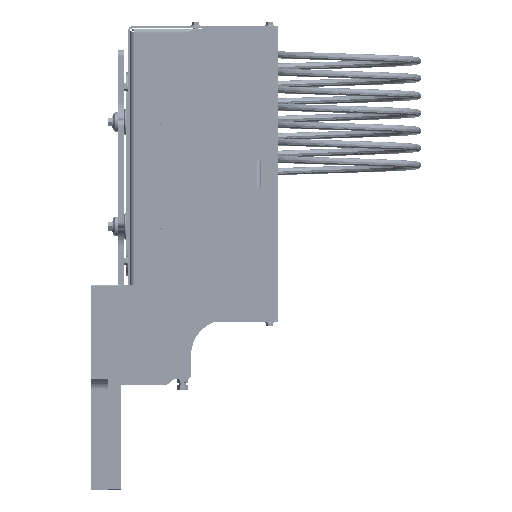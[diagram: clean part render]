
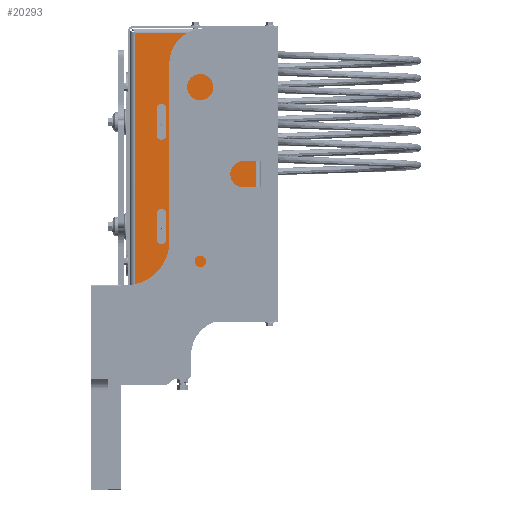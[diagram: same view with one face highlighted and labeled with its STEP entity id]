
A CAD part, left-side view. The second image highlights one B-rep face of the part: STEP entity #20293.
In plain terms, the highlighted planar face has unit normal (-1, 0, 0).
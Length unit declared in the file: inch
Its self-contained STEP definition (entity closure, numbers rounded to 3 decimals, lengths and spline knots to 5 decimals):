
#746 = VECTOR ( 'NONE', #104741, 39.37008 ) ;
#1942 = CARTESIAN_POINT ( 'NONE',  ( -22., 5.98, -3.75 ) ) ;
#3244 = DIRECTION ( 'NONE',  ( 0., 0., -1. ) ) ;
#5101 = AXIS2_PLACEMENT_3D ( 'NONE', #43385, #103668, #52018 ) ;
#6912 = DIRECTION ( 'NONE',  ( 1., 0., 0. ) ) ;
#7045 = CARTESIAN_POINT ( 'NONE',  ( -22., 5.7, -1.97 ) ) ;
#7921 = DIRECTION ( 'NONE',  ( -1., 0., 0. ) ) ;
#8746 = CARTESIAN_POINT ( 'NONE',  ( -22., 0.265, 8.095 ) ) ;
#8983 = VECTOR ( 'NONE', #21545, 39.37008 ) ;
#9997 = LINE ( 'NONE', #90652, #75837 ) ;
#10026 = DIRECTION ( 'NONE',  ( 1., 0., 0. ) ) ;
#10101 = FACE_BOUND ( 'NONE', #79234, .T. ) ;
#11237 = VECTOR ( 'NONE', #20377, 39.37008 ) ;
#12729 = CARTESIAN_POINT ( 'NONE',  ( -22., 5.7, -3.75 ) ) ;
#14408 = CIRCLE ( 'NONE', #61489, 0.28 ) ;
#16446 = CARTESIAN_POINT ( 'NONE',  ( -22., 5.42, 3.75 ) ) ;
#17412 = CARTESIAN_POINT ( 'NONE',  ( -22., 7.235, 8.095 ) ) ;
#20293 = ADVANCED_FACE ( 'NONE', ( #78726, #101579, #10101 ), #48892, .F. ) ;
#20377 = DIRECTION ( 'NONE',  ( 0., 0., 1. ) ) ;
#20797 = EDGE_CURVE ( 'NONE', #69899, #72812, #9997, .T. ) ;
#21341 = DIRECTION ( 'NONE',  ( 0., 0., 1. ) ) ;
#21545 = DIRECTION ( 'NONE',  ( 0., 0., 1. ) ) ;
#21787 = CARTESIAN_POINT ( 'NONE',  ( -22., 7.36586, -8.095 ) ) ;
#22898 = VECTOR ( 'NONE', #95177, 39.37008 ) ;
#22919 = LINE ( 'NONE', #103131, #43034 ) ;
#23040 = DIRECTION ( 'NONE',  ( 1., 0., 0. ) ) ;
#23103 = EDGE_CURVE ( 'NONE', #72812, #97505, #96954, .T. ) ;
#23938 = ORIENTED_EDGE ( 'NONE', *, *, #74591, .T. ) ;
#26062 = DIRECTION ( 'NONE',  ( 0., 0., -1. ) ) ;
#26298 = EDGE_CURVE ( 'NONE', #97505, #45253, #71996, .T. ) ;
#27677 = ORIENTED_EDGE ( 'NONE', *, *, #20797, .T. ) ;
#28071 = EDGE_CURVE ( 'NONE', #31710, #73007, #14408, .T. ) ;
#30193 = ORIENTED_EDGE ( 'NONE', *, *, #87865, .F. ) ;
#30444 = DIRECTION ( 'NONE',  ( 0., 0., 1. ) ) ;
#31277 = EDGE_CURVE ( 'NONE', #65750, #41593, #34077, .T. ) ;
#31710 = VERTEX_POINT ( 'NONE', #94717 ) ;
#33872 = CIRCLE ( 'NONE', #56420, 0.28 ) ;
#34077 = LINE ( 'NONE', #37256, #11237 ) ;
#37256 = CARTESIAN_POINT ( 'NONE',  ( -22., 5.42, -3.75 ) ) ;
#39969 = CARTESIAN_POINT ( 'NONE',  ( -22., 0.265, -8.095 ) ) ;
#41593 = VERTEX_POINT ( 'NONE', #84069 ) ;
#42512 = EDGE_CURVE ( 'NONE', #45253, #69899, #97854, .T. ) ;
#43034 = VECTOR ( 'NONE', #60176, 39.37008 ) ;
#43385 = CARTESIAN_POINT ( 'NONE',  ( -22., 5.7, -2.25 ) ) ;
#45253 = VERTEX_POINT ( 'NONE', #62482 ) ;
#45448 = ORIENTED_EDGE ( 'NONE', *, *, #23103, .T. ) ;
#47040 = CARTESIAN_POINT ( 'NONE',  ( -22., 5.98, 3.75 ) ) ;
#48257 = ORIENTED_EDGE ( 'NONE', *, *, #86724, .T. ) ;
#48892 = PLANE ( 'NONE',  #81317 ) ;
#49571 = VECTOR ( 'NONE', #26062, 39.37008 ) ;
#49992 = EDGE_CURVE ( 'NONE', #73007, #53338, #54601, .T. ) ;
#52018 = DIRECTION ( 'NONE',  ( 0., 0., 1. ) ) ;
#52994 = EDGE_CURVE ( 'NONE', #107935, #65750, #33872, .T. ) ;
#53097 = CARTESIAN_POINT ( 'NONE',  ( -22., 7.235, 8.22586 ) ) ;
#53338 = VERTEX_POINT ( 'NONE', #86704 ) ;
#54601 = LINE ( 'NONE', #47040, #8983 ) ;
#54607 = DIRECTION ( 'NONE',  ( 1., 0., 0. ) ) ;
#54928 = EDGE_LOOP ( 'NONE', ( #108794, #88095, #109473, #30193, #69100 ) ) ;
#55204 = EDGE_CURVE ( 'NONE', #53338, #78424, #100094, .T. ) ;
#56420 = AXIS2_PLACEMENT_3D ( 'NONE', #12729, #72808, #21341 ) ;
#57557 = DIRECTION ( 'NONE',  ( 0., 0., -1. ) ) ;
#58290 = CARTESIAN_POINT ( 'NONE',  ( -22., 5.7, 3.75 ) ) ;
#59324 = CARTESIAN_POINT ( 'NONE',  ( -22., 5.7, -2.25 ) ) ;
#59677 = ORIENTED_EDGE ( 'NONE', *, *, #26298, .T. ) ;
#60176 = DIRECTION ( 'NONE',  ( 0., 0., -1. ) ) ;
#61445 = CARTESIAN_POINT ( 'NONE',  ( -22., 5.7, 2.25 ) ) ;
#61489 = AXIS2_PLACEMENT_3D ( 'NONE', #61445, #10026, #70102 ) ;
#62482 = CARTESIAN_POINT ( 'NONE',  ( -22., 7.235, -8.095 ) ) ;
#63050 = CIRCLE ( 'NONE', #5101, 0.28 ) ;
#63566 = EDGE_CURVE ( 'NONE', #86654, #107935, #22919, .T. ) ;
#63705 = CARTESIAN_POINT ( 'NONE',  ( -22., 5.7, 4.03 ) ) ;
#65192 = AXIS2_PLACEMENT_3D ( 'NONE', #59324, #7921, #68007 ) ;
#65502 = ORIENTED_EDGE ( 'NONE', *, *, #42512, .T. ) ;
#65750 = VERTEX_POINT ( 'NONE', #69821 ) ;
#65833 = AXIS2_PLACEMENT_3D ( 'NONE', #58290, #6912, #66989 ) ;
#66029 = AXIS2_PLACEMENT_3D ( 'NONE', #106286, #54607, #3244 ) ;
#66989 = DIRECTION ( 'NONE',  ( 0., 0., -1. ) ) ;
#68007 = DIRECTION ( 'NONE',  ( 0., 0., 1. ) ) ;
#69100 = ORIENTED_EDGE ( 'NONE', *, *, #87207, .F. ) ;
#69821 = CARTESIAN_POINT ( 'NONE',  ( -22., 5.42, -3.75 ) ) ;
#69899 = VERTEX_POINT ( 'NONE', #39969 ) ;
#70102 = DIRECTION ( 'NONE',  ( 0., 0., -1. ) ) ;
#71799 = CARTESIAN_POINT ( 'NONE',  ( -22., 5.98, 2.25 ) ) ;
#71996 = LINE ( 'NONE', #53097, #746 ) ;
#72808 = DIRECTION ( 'NONE',  ( -1., 0., 0. ) ) ;
#72812 = VERTEX_POINT ( 'NONE', #8746 ) ;
#73007 = VERTEX_POINT ( 'NONE', #71799 ) ;
#73253 = DIRECTION ( 'NONE',  ( 0., -1., 0. ) ) ;
#74591 = EDGE_CURVE ( 'NONE', #78424, #93138, #89768, .T. ) ;
#74897 = VECTOR ( 'NONE', #73253, 39.37008 ) ;
#75837 = VECTOR ( 'NONE', #30444, 39.37008 ) ;
#78424 = VERTEX_POINT ( 'NONE', #63705 ) ;
#78726 = FACE_OUTER_BOUND ( 'NONE', #105415, .T. ) ;
#79234 = EDGE_LOOP ( 'NONE', ( #106942, #23938, #48257, #104050, #91399 ) ) ;
#81317 = AXIS2_PLACEMENT_3D ( 'NONE', #91878, #23040, #57557 ) ;
#84069 = CARTESIAN_POINT ( 'NONE',  ( -22., 5.42, -2.25 ) ) ;
#86257 = CARTESIAN_POINT ( 'NONE',  ( -22., 5.42, 3.75 ) ) ;
#86553 = CARTESIAN_POINT ( 'NONE',  ( -22., 0.13414, 8.095 ) ) ;
#86654 = VERTEX_POINT ( 'NONE', #97453 ) ;
#86704 = CARTESIAN_POINT ( 'NONE',  ( -22., 5.98, 3.75 ) ) ;
#86724 = EDGE_CURVE ( 'NONE', #93138, #31710, #95443, .T. ) ;
#87207 = EDGE_CURVE ( 'NONE', #41593, #100562, #98049, .T. ) ;
#87865 = EDGE_CURVE ( 'NONE', #100562, #86654, #63050, .T. ) ;
#88095 = ORIENTED_EDGE ( 'NONE', *, *, #52994, .F. ) ;
#89768 = CIRCLE ( 'NONE', #65833, 0.28 ) ;
#90652 = CARTESIAN_POINT ( 'NONE',  ( -22., 0.265, -8.22586 ) ) ;
#91399 = ORIENTED_EDGE ( 'NONE', *, *, #49992, .T. ) ;
#91878 = CARTESIAN_POINT ( 'NONE',  ( -22., 3.75, 0. ) ) ;
#93138 = VERTEX_POINT ( 'NONE', #16446 ) ;
#94717 = CARTESIAN_POINT ( 'NONE',  ( -22., 5.42, 2.25 ) ) ;
#95177 = DIRECTION ( 'NONE',  ( 0., 1., 0. ) ) ;
#95443 = LINE ( 'NONE', #86257, #49571 ) ;
#96954 = LINE ( 'NONE', #86553, #22898 ) ;
#97453 = CARTESIAN_POINT ( 'NONE',  ( -22., 5.98, -2.25 ) ) ;
#97505 = VERTEX_POINT ( 'NONE', #17412 ) ;
#97854 = LINE ( 'NONE', #21787, #74897 ) ;
#98049 = CIRCLE ( 'NONE', #65192, 0.28 ) ;
#100094 = CIRCLE ( 'NONE', #66029, 0.28 ) ;
#100562 = VERTEX_POINT ( 'NONE', #7045 ) ;
#101579 = FACE_BOUND ( 'NONE', #54928, .T. ) ;
#103131 = CARTESIAN_POINT ( 'NONE',  ( -22., 5.98, -3.75 ) ) ;
#103668 = DIRECTION ( 'NONE',  ( -1., 0., 0. ) ) ;
#104050 = ORIENTED_EDGE ( 'NONE', *, *, #28071, .T. ) ;
#104741 = DIRECTION ( 'NONE',  ( 0., 0., -1. ) ) ;
#105415 = EDGE_LOOP ( 'NONE', ( #45448, #59677, #65502, #27677 ) ) ;
#106286 = CARTESIAN_POINT ( 'NONE',  ( -22., 5.7, 3.75 ) ) ;
#106942 = ORIENTED_EDGE ( 'NONE', *, *, #55204, .T. ) ;
#107935 = VERTEX_POINT ( 'NONE', #1942 ) ;
#108794 = ORIENTED_EDGE ( 'NONE', *, *, #31277, .F. ) ;
#109473 = ORIENTED_EDGE ( 'NONE', *, *, #63566, .F. ) ;
